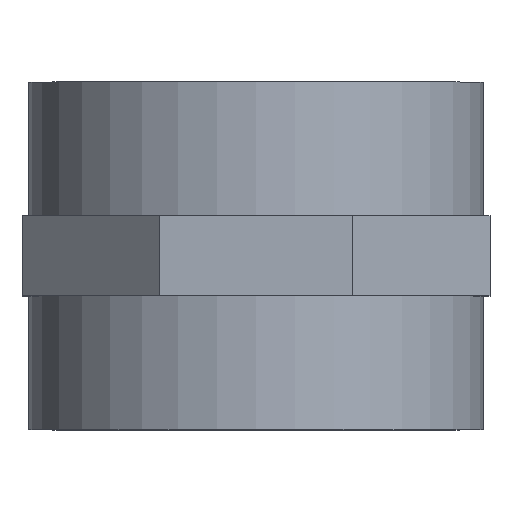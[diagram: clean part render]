
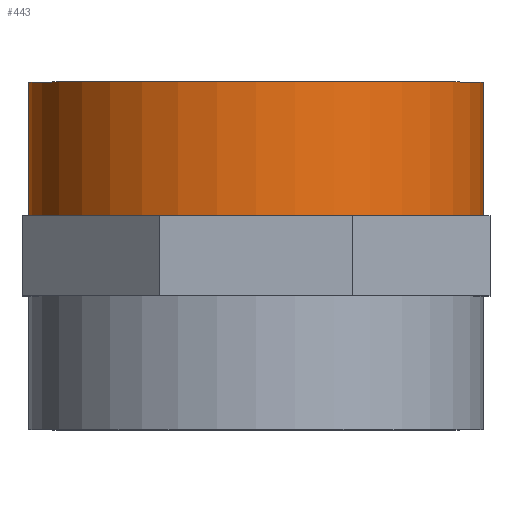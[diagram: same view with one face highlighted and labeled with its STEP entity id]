
A CAD part, top view. The second image highlights one B-rep face of the part: STEP entity #443.
In plain terms, the highlighted cylindrical face has radius 51 mm (diameter 102 mm), a full revolution.
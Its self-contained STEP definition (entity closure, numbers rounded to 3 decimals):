
#74=CYLINDRICAL_SURFACE('',#466,51.);
#81=FACE_BOUND('',#147,.T.);
#88=CIRCLE('',#457,51.);
#89=CIRCLE('',#467,51.);
#114=FACE_OUTER_BOUND('',#146,.T.);
#146=EDGE_LOOP('',(#390));
#147=EDGE_LOOP('',(#391));
#223=VERTEX_POINT('',#12118);
#224=VERTEX_POINT('',#12137);
#275=EDGE_CURVE('',#223,#223,#88,.T.);
#284=EDGE_CURVE('',#224,#224,#89,.T.);
#390=ORIENTED_EDGE('',*,*,#284,.F.);
#391=ORIENTED_EDGE('',*,*,#275,.T.);
#443=ADVANCED_FACE('',(#114,#81),#74,.T.);
#457=AXIS2_PLACEMENT_3D('',#12119,#506,#507);
#466=AXIS2_PLACEMENT_3D('',#12136,#532,#533);
#467=AXIS2_PLACEMENT_3D('',#12138,#534,#535);
#506=DIRECTION('center_axis',(0.,1.,0.));
#507=DIRECTION('ref_axis',(1.,0.,0.));
#532=DIRECTION('center_axis',(0.,1.,0.));
#533=DIRECTION('ref_axis',(1.,0.,0.));
#534=DIRECTION('center_axis',(0.,1.,0.));
#535=DIRECTION('ref_axis',(1.,0.,0.));
#12118=CARTESIAN_POINT('',(-51.,9.,0.));
#12119=CARTESIAN_POINT('Origin',(0.,9.,0.));
#12136=CARTESIAN_POINT('Origin',(0.,0.,0.));
#12137=CARTESIAN_POINT('',(-51.,39.,0.));
#12138=CARTESIAN_POINT('Origin',(0.,39.,0.));
